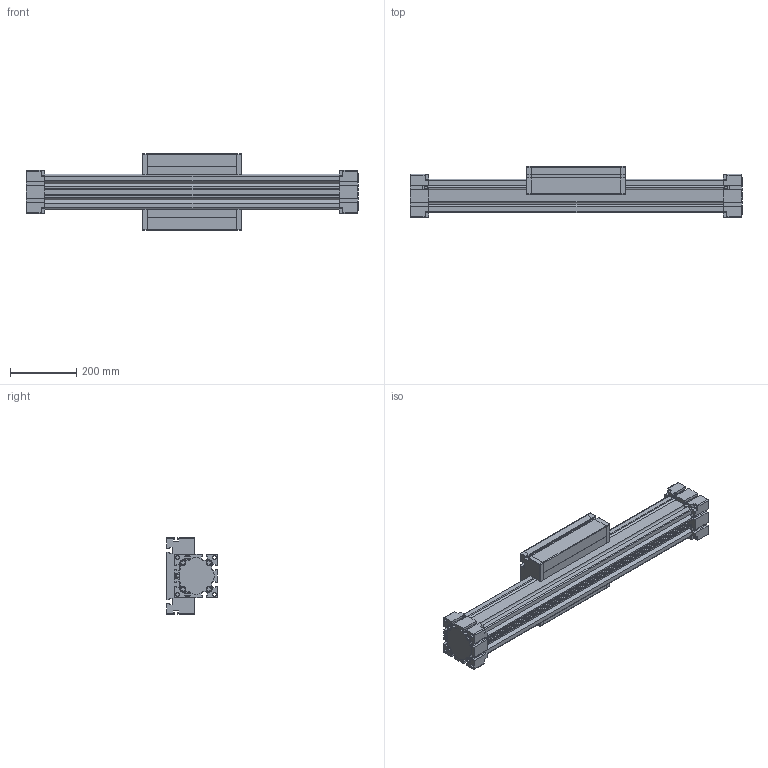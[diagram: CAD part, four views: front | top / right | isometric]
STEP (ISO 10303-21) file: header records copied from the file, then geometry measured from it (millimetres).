
FILE_DESCRIPTION (( 'STEP AP214' ), '1' );
FILE_NAME ('ELR-100.STEP', '2016-01-15T07:16:48', ( 'admin' ), ( '' ), 'SwSTEP 2.0', 'SolidWorks 2015', '' );
FILE_SCHEMA (( 'AUTOMOTIVE_DESIGN' ));
Length unit declared in the file: millimetre
Products named in the file (5): ELR-100; Kopie von Bahr-ELR-ELR-100  0  0 0  0 0 0 0  1410_EL100 Carriage^ELR100 S0_A; Kopie von Bahr-ELR-ELR-100  0  0 0  0 0 0 0  1410_EL100 Extrusion^ELR100 S0_0; Kopie von Bahr-ELR-ELR-100  0  0 0  0 0 0 0  1410_ELR End Block 100 (B)^ELR100 S0_ELR-100 End Block 0-0; Kopie von Bahr-ELR-ELR-100  0  0 0  0 0 0 0  1410_ELR End Block 100 (A)^ELR100 S0_ELR-100 End Block 0-0
Assembly tree (4 placements, depth 2):
  ELR-100
    Kopie von Bahr-ELR-ELR-100  0  0 0  0 0 0 0  1410_ELR End Block 100 (A)^ELR100 S0_ELR-100 End Block 0-0
    Kopie von Bahr-ELR-ELR-100  0  0 0  0 0 0 0  1410_ELR End Block 100 (B)^ELR100 S0_ELR-100 End Block 0-0
    Kopie von Bahr-ELR-ELR-100  0  0 0  0 0 0 0  1410_EL100 Extrusion^ELR100 S0_0
    Kopie von Bahr-ELR-ELR-100  0  0 0  0 0 0 0  1410_EL100 Carriage^ELR100 S0_A
Bounding box: 1003 x 154 x 230 mm (x, y, z)
Volume: 13334559.3 mm3; surface area: 1157225.9 mm2
Topology: 18 solids, 18 shells, 931 faces, 2513 edges, 1654 vertices
Faces by surface type: plane 680, cylinder 211, cone 32, torus 8
Entity records: 31123 total; most frequent: CARTESIAN_POINT 5169, ORIENTED_EDGE 5026, DIRECTION 4867, EDGE_CURVE 2513, VECTOR 2019, LINE 2019, VERTEX_POINT 1654, AXIS2_PLACEMENT_3D 1424
